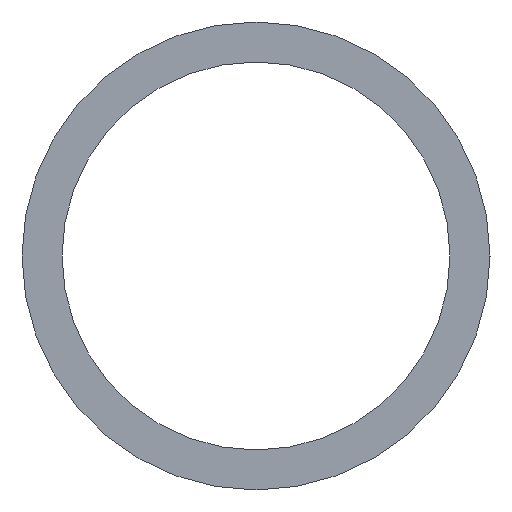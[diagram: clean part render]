
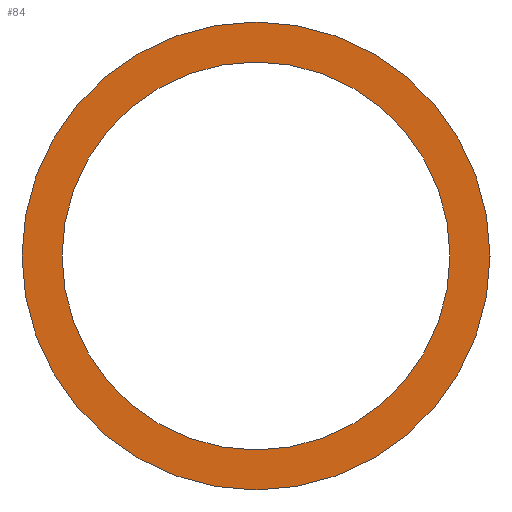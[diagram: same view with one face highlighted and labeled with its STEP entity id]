
A CAD part, left-side view. The second image highlights one B-rep face of the part: STEP entity #84.
In plain terms, the highlighted planar face has unit normal (-1, 0, 0).
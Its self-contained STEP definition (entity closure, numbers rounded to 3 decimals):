
#5 = CARTESIAN_POINT ( 'NONE',  ( -85., 3786.15, 2995.85 ) ) ;
#21 = AXIS2_PLACEMENT_3D ( 'NONE', #23, #56, #41 ) ;
#23 = CARTESIAN_POINT ( 'NONE',  ( -85., 3775., 2995.85 ) ) ;
#24 = CARTESIAN_POINT ( 'NONE',  ( -85., 3763.85, 2995.85 ) ) ;
#27 = CIRCLE ( 'NONE', #21, 13.45 ) ;
#36 = CIRCLE ( 'NONE', #78, 13.45 ) ;
#38 = DIRECTION ( 'NONE',  ( 0., 1., 0. ) ) ;
#41 = DIRECTION ( 'NONE',  ( 0., 1., 0. ) ) ;
#42 = DIRECTION ( 'NONE',  ( 1., 0., 0. ) ) ;
#51 = ORIENTED_EDGE ( 'NONE', *, *, #67, .F. ) ;
#53 = CARTESIAN_POINT ( 'NONE',  ( -85., 3775., 2995.85 ) ) ;
#56 = DIRECTION ( 'NONE',  ( 1., 0., 0. ) ) ;
#67 = EDGE_CURVE ( 'NONE', #85, #116, #36, .T. ) ;
#68 = EDGE_CURVE ( 'NONE', #148, #98, #202, .T. ) ;
#70 = DIRECTION ( 'NONE',  ( 1., 0., 0. ) ) ;
#71 = CARTESIAN_POINT ( 'NONE',  ( -85., 3761.55, 2995.85 ) ) ;
#75 = PLANE ( 'NONE',  #210 ) ;
#78 = AXIS2_PLACEMENT_3D ( 'NONE', #182, #70, #38 ) ;
#79 = CIRCLE ( 'NONE', #135, 11.15 ) ;
#84 = ADVANCED_FACE ( 'NONE', ( #126, #159 ), #75, .F. ) ;
#85 = VERTEX_POINT ( 'NONE', #206 ) ;
#95 = EDGE_LOOP ( 'NONE', ( #136, #143 ) ) ;
#98 = VERTEX_POINT ( 'NONE', #5 ) ;
#101 = EDGE_LOOP ( 'NONE', ( #208, #51 ) ) ;
#103 = CARTESIAN_POINT ( 'NONE',  ( -85., 3775., 2995.85 ) ) ;
#106 = DIRECTION ( 'NONE',  ( 1., 0., 0. ) ) ;
#110 = AXIS2_PLACEMENT_3D ( 'NONE', #103, #170, #197 ) ;
#116 = VERTEX_POINT ( 'NONE', #71 ) ;
#123 = EDGE_CURVE ( 'NONE', #116, #85, #27, .T. ) ;
#124 = DIRECTION ( 'NONE',  ( 0., 1., 0. ) ) ;
#126 = FACE_OUTER_BOUND ( 'NONE', #101, .T. ) ;
#135 = AXIS2_PLACEMENT_3D ( 'NONE', #53, #42, #124 ) ;
#136 = ORIENTED_EDGE ( 'NONE', *, *, #68, .T. ) ;
#143 = ORIENTED_EDGE ( 'NONE', *, *, #186, .T. ) ;
#144 = DIRECTION ( 'NONE',  ( 0., 1., 0. ) ) ;
#148 = VERTEX_POINT ( 'NONE', #24 ) ;
#158 = CARTESIAN_POINT ( 'NONE',  ( -85., 3775., 2995.85 ) ) ;
#159 = FACE_BOUND ( 'NONE', #95, .T. ) ;
#170 = DIRECTION ( 'NONE',  ( 1., 0., 0. ) ) ;
#182 = CARTESIAN_POINT ( 'NONE',  ( -85., 3775., 2995.85 ) ) ;
#186 = EDGE_CURVE ( 'NONE', #98, #148, #79, .T. ) ;
#197 = DIRECTION ( 'NONE',  ( 0., 1., 0. ) ) ;
#202 = CIRCLE ( 'NONE', #110, 11.15 ) ;
#206 = CARTESIAN_POINT ( 'NONE',  ( -85., 3788.45, 2995.85 ) ) ;
#208 = ORIENTED_EDGE ( 'NONE', *, *, #123, .F. ) ;
#210 = AXIS2_PLACEMENT_3D ( 'NONE', #158, #106, #144 ) ;
